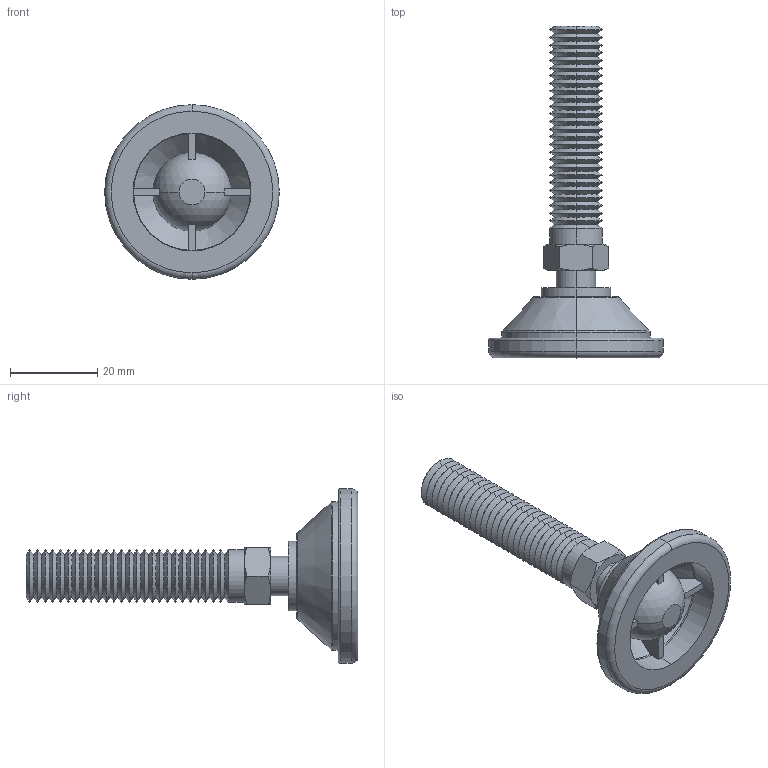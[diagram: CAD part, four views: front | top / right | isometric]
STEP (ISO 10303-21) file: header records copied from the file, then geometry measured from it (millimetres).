
FILE_DESCRIPTION (( 'STEP AP203' ), '1' );
FILE_NAME ('34741.W0120.step', '2016-09-22T07:40:39', ( 'User' ), ( '' ), 'SwSTEP 2.0', 'SolidWorks 2009', '' );
FILE_SCHEMA (( 'CONFIG_CONTROL_DESIGN' ));
Length unit declared in the file: millimetre
Products named in the file (3): 34741.W0120; Part1_34741.W0120; Part2_34741.W0120
Assembly tree (2 placements, depth 2):
  34741.W0120
    Part1_34741.W0120
    Part2_34741.W0120
Bounding box: 40 x 76 x 40 mm (x, y, z)
Volume: 14502.8 mm3; surface area: 8990.5 mm2
Topology: 2 solids, 2 shells, 184 faces, 404 edges, 226 vertices
Faces by surface type: cone 126, plane 26, cylinder 14, torus 12, sphere 6
Entity records: 5345 total; most frequent: CARTESIAN_POINT 1013, DIRECTION 942, ORIENTED_EDGE 790, AXIS2_PLACEMENT_3D 398, EDGE_CURVE 395, VERTEX_POINT 221, CIRCLE 209, EDGE_LOOP 190
